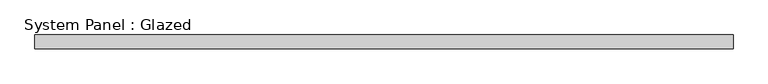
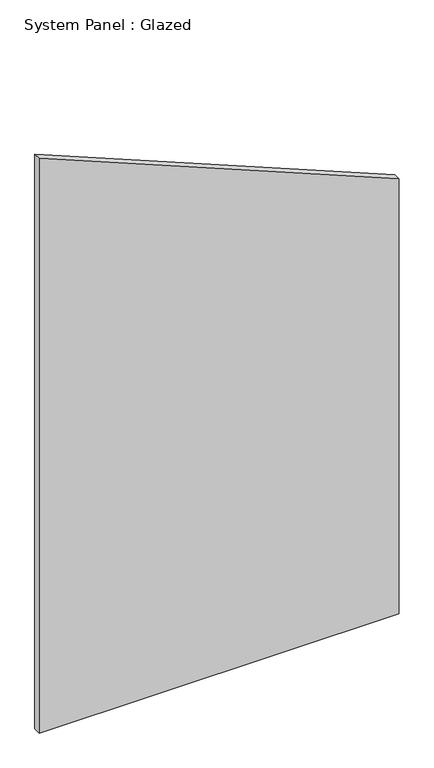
"""IFC4 building model written with IfcOpenShell, lengths in millimetres: plate geometry, System Panel : Glazed."""

from ifc_helpers import new_model, si_unit, frame, origin, place, context, project, spatial, polyline, outline, extrude, source, transform, mapped, element, save


def system_panel_glazed_84a4ac58(model_context):
    return source(origin(), model_context, "Body", "SweptSolid", [
        extrude(outline(polyline([(0.0, -641.35), (0.0, 641.35), (1637.4752675, 641.35), (2163.0752471, -641.35), (0.0, -641.35)])), frame((0.0, 19.05, 0.0), z_axis=(0.0, 1.0, 0.0), x_axis=(0.0, 0.0, 1.0)), (0.0, 0.0, 1.0), 25.4),
    ])


if __name__ == "__main__":
    model = new_model("IFC4")
    model_context = context("Model", 3, world=origin())
    ifc_project = project(units=[si_unit("LENGTHUNIT", "METRE", prefix="MILLI")], contexts=[model_context])
    site = spatial("IfcSite", under=ifc_project)
    building = spatial("IfcBuilding", under=site)
    placement = place(None, origin())
    system_panel_glazed_shape = system_panel_glazed_84a4ac58(model_context)
    element("IfcPlate", 1, ObjectType="System Panel : Glazed", at=placement, inside=building, context=model_context, shape_type="MappedRepresentation", body=[
        mapped(system_panel_glazed_shape, transform((0.0, 0.0, 0.0), x_axis=(1.0, 0.0, 0.0), y_axis=(0.0, 1.0, 0.0), z_axis=(0.0, 0.0, 1.0))),
    ])
    save(model, "model.ifc")
